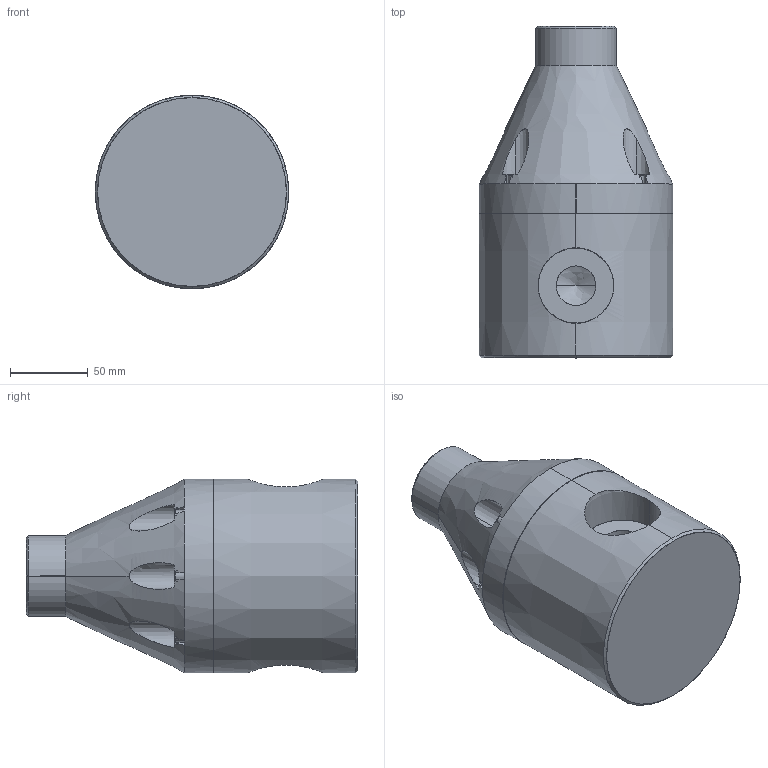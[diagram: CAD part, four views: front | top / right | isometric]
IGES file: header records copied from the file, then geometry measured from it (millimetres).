
Start section: SolidWorks IGES file using analytic representation for surfaces
Global section: file name: F:\Griffco-Valve\Griffco_current-projects\GV_web-files_2015\G Series\New\GBP1500-SOC.IGS; native system: SolidWorks 2008; preprocessor: SolidWorks 2008; author: Dan; date: 150427.061045; units: inch
Bounding box: 124.46 x 213.36 x 124.46 mm (x, y, z)
Surface area: 109248.9 mm2 (no closed solid volume)
Topology: 0 solids, 0 shells, 197 faces, 2960 edges, 2956 vertices
Faces by surface type: bspline 137, revolution 60
